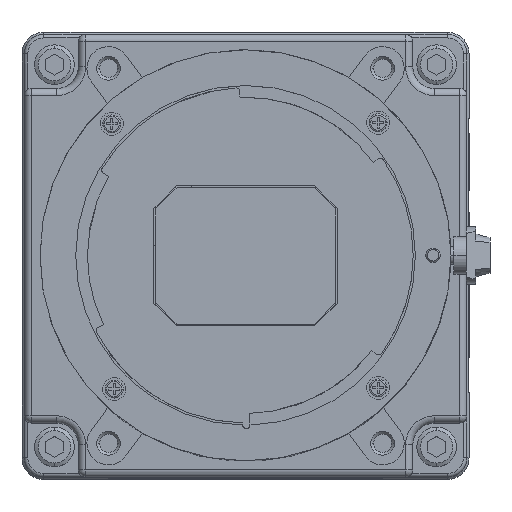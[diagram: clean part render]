
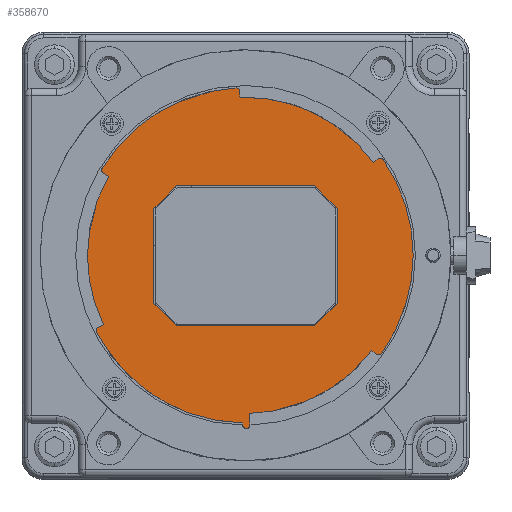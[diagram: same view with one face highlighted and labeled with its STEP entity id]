
A CAD part, top view. The second image highlights one B-rep face of the part: STEP entity #358670.
In plain terms, the highlighted planar face has unit normal (0, 0, 1).
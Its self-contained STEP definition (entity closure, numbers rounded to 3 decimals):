
#356270=CARTESIAN_POINT('',(-31.812,180.,81.301));
#356280=VERTEX_POINT('',#356270);
#356310=CARTESIAN_POINT('',(-30.612,180.,81.301));
#356320=DIRECTION('',(0.,0.,1.));
#356330=DIRECTION('',(-1.,0.,0.));
#356340=AXIS2_PLACEMENT_3D('',#356310,#356320,#356330);
#356350=CIRCLE('',#356340,1.2);
#356360=CARTESIAN_POINT('',(-29.412,180.,81.301));
#356370=VERTEX_POINT('',#356360);
#356380=EDGE_CURVE('',#356370,#356280,#356350,.T.);
#356500=CARTESIAN_POINT('',(-77.112,199.,
81.301));
#356510=DIRECTION('',(0.,0.,1.));
#356520=DIRECTION('',(1.,0.,0.));
#356530=AXIS2_PLACEMENT_3D('',#356500,#356510,#356520);
#356540=PLANE('',#356530);
#356550=CARTESIAN_POINT('',(-80.612,218.,81.301));
#356560=DIRECTION('',(0.,0.,1.));
#356570=DIRECTION('',(-1.,0.,0.));
#356580=AXIS2_PLACEMENT_3D('',#356550,#356560,#356570);
#356590=CIRCLE('',#356580,1.2);
#356600=CARTESIAN_POINT('',(-81.812,218.,81.301));
#356610=VERTEX_POINT('',#356600);
#356620=CARTESIAN_POINT('',(-79.412,218.,81.301));
#356630=VERTEX_POINT('',#356620);
#356640=EDGE_CURVE('',#356610,#356630,#356590,.T.);
#356650=ORIENTED_EDGE('',*,*,#356640,.F.);
#356660=EDGE_CURVE('',#356630,#356610,#356590,.T.);
#356670=ORIENTED_EDGE('',*,*,#356660,.F.);
#356680=EDGE_LOOP('',(#356670,#356650));
#356690=FACE_BOUND('',#356680,.T.);
#356700=EDGE_CURVE('',#356280,#356370,#356350,.T.);
#356710=ORIENTED_EDGE('',*,*,#356700,.F.);
#356720=ORIENTED_EDGE('',*,*,#356380,.F.);
#356730=EDGE_LOOP('',(#356720,#356710));
#356740=FACE_BOUND('',#356730,.T.);
#356750=CARTESIAN_POINT('',(-30.612,218.,81.301));
#356760=DIRECTION('',(0.,0.,1.));
#356770=DIRECTION('',(-1.,0.,0.));
#356780=AXIS2_PLACEMENT_3D('',#356750,#356760,#356770);
#356790=CIRCLE('',#356780,1.2);
#356800=CARTESIAN_POINT('',(-31.812,218.,81.301));
#356810=VERTEX_POINT('',#356800);
#356820=CARTESIAN_POINT('',(-29.412,218.,81.301));
#356830=VERTEX_POINT('',#356820);
#356840=EDGE_CURVE('',#356810,#356830,#356790,.T.);
#356850=ORIENTED_EDGE('',*,*,#356840,.F.);
#356860=EDGE_CURVE('',#356830,#356810,#356790,.T.);
#356870=ORIENTED_EDGE('',*,*,#356860,.F.);
#356880=EDGE_LOOP('',(#356870,#356850));
#356890=FACE_BOUND('',#356880,.T.);
#356900=CARTESIAN_POINT('',(-55.612,218.3,
81.301));
#356910=DIRECTION('',(0.707,-0.707,-0.));
#356920=VECTOR('',#356910,1.);
#356930=LINE('',#356900,#356920);
#356940=CARTESIAN_POINT('',(-46.012,208.7,81.301));
#356950=VERTEX_POINT('',#356940);
#356960=CARTESIAN_POINT('',(-42.912,205.6,81.301));
#356970=VERTEX_POINT('',#356960);
#356980=EDGE_CURVE('',#356950,#356970,#356930,.T.);
#356990=ORIENTED_EDGE('',*,*,#356980,.T.);
#357000=CARTESIAN_POINT('',(-55.612,208.7,81.301));
#357010=DIRECTION('',(1.,0.,0.));
#357020=VECTOR('',#357010,1.);
#357030=LINE('',#357000,#357020);
#357040=CARTESIAN_POINT('',(-65.212,208.7,81.301));
#357050=VERTEX_POINT('',#357040);
#357060=EDGE_CURVE('',#357050,#356950,#357030,.T.);
#357070=ORIENTED_EDGE('',*,*,#357060,.T.);
#357080=CARTESIAN_POINT('',(-55.612,218.3,
81.301));
#357090=DIRECTION('',(0.707,0.707,0.));
#357100=VECTOR('',#357090,1.);
#357110=LINE('',#357080,#357100);
#357120=CARTESIAN_POINT('',(-68.312,205.6,81.301));
#357130=VERTEX_POINT('',#357120);
#357140=EDGE_CURVE('',#357130,#357050,#357110,.T.);
#357150=ORIENTED_EDGE('',*,*,#357140,.T.);
#357160=CARTESIAN_POINT('',(-68.312,181.658,
81.301));
#357170=DIRECTION('',(0.,1.,0.));
#357180=VECTOR('',#357170,1.);
#357190=LINE('',#357160,#357180);
#357200=CARTESIAN_POINT('',(-68.312,192.4,81.301));
#357210=VERTEX_POINT('',#357200);
#357220=EDGE_CURVE('',#357210,#357130,#357190,.T.);
#357230=ORIENTED_EDGE('',*,*,#357220,.T.);
#357240=CARTESIAN_POINT('',(-55.612,179.7,
81.301));
#357250=DIRECTION('',(0.707,-0.707,-0.));
#357260=VECTOR('',#357250,1.);
#357270=LINE('',#357240,#357260);
#357280=CARTESIAN_POINT('',(-65.212,189.3,81.301));
#357290=VERTEX_POINT('',#357280);
#357300=EDGE_CURVE('',#357210,#357290,#357270,.T.);
#357310=ORIENTED_EDGE('',*,*,#357300,.F.);
#357320=CARTESIAN_POINT('',(-55.612,189.3,81.301));
#357330=DIRECTION('',(-1.,0.,0.));
#357340=VECTOR('',#357330,1.);
#357350=LINE('',#357320,#357340);
#357360=CARTESIAN_POINT('',(-46.012,189.3,81.301));
#357370=VERTEX_POINT('',#357360);
#357380=EDGE_CURVE('',#357370,#357290,#357350,.T.);
#357390=ORIENTED_EDGE('',*,*,#357380,.T.);
#357400=CARTESIAN_POINT('',(-55.612,179.7,
81.301));
#357410=DIRECTION('',(-0.707,-0.707,0.));
#357420=VECTOR('',#357410,1.);
#357430=LINE('',#357400,#357420);
#357440=CARTESIAN_POINT('',(-42.912,192.4,81.301));
#357450=VERTEX_POINT('',#357440);
#357460=EDGE_CURVE('',#357450,#357370,#357430,.T.);
#357470=ORIENTED_EDGE('',*,*,#357460,.T.);
#357480=CARTESIAN_POINT('',(-42.912,181.658,
81.301));
#357490=DIRECTION('',(0.,-1.,0.));
#357500=VECTOR('',#357490,1.);
#357510=LINE('',#357480,#357500);
#357520=EDGE_CURVE('',#356970,#357450,#357510,.T.);
#357530=ORIENTED_EDGE('',*,*,#357520,.T.);
#357540=EDGE_LOOP('',(#357530,#357470,#357390,#357310,#357230,#357150,
#357070,#356990));
#357550=FACE_BOUND('',#357540,.T.);
#357560=CARTESIAN_POINT('',(-80.612,180.,81.301));
#357570=DIRECTION('',(0.,0.,1.));
#357580=DIRECTION('',(-1.,0.,0.));
#357590=AXIS2_PLACEMENT_3D('',#357560,#357570,#357580);
#357600=CIRCLE('',#357590,1.2);
#357610=CARTESIAN_POINT('',(-81.812,180.,81.301));
#357620=VERTEX_POINT('',#357610);
#357630=CARTESIAN_POINT('',(-79.412,180.,81.301));
#357640=VERTEX_POINT('',#357630);
#357650=EDGE_CURVE('',#357620,#357640,#357600,.T.);
#357660=ORIENTED_EDGE('',*,*,#357650,.F.);
#357670=EDGE_CURVE('',#357640,#357620,#357600,.T.);
#357680=ORIENTED_EDGE('',*,*,#357670,.F.);
#357690=EDGE_LOOP('',(#357680,#357660));
#357700=FACE_BOUND('',#357690,.T.);
#357710=CARTESIAN_POINT('',(-55.612,177.2,
81.301));
#357720=DIRECTION('',(1.,0.,0.));
#357730=VECTOR('',#357720,1.);
#357740=LINE('',#357710,#357730);
#357750=CARTESIAN_POINT('',(-81.412,177.2,
81.301));
#357760=VERTEX_POINT('',#357750);
#357770=CARTESIAN_POINT('',(-67.436,177.2,
81.301));
#357780=VERTEX_POINT('',#357770);
#357790=EDGE_CURVE('',#357760,#357780,#357740,.T.);
#357800=ORIENTED_EDGE('',*,*,#357790,.T.);
#357810=CARTESIAN_POINT('',(-81.412,179.2,
81.301));
#357820=DIRECTION('',(0.,0.,1.));
#357830=DIRECTION('',(0.,-1.,0.));
#357840=AXIS2_PLACEMENT_3D('',#357810,#357820,#357830);
#357850=CIRCLE('',#357840,2.);
#357860=CARTESIAN_POINT('',(-83.412,179.2,
81.301));
#357870=VERTEX_POINT('',#357860);
#357880=EDGE_CURVE('',#357870,#357760,#357850,.T.);
#357890=ORIENTED_EDGE('',*,*,#357880,.T.);
#357900=CARTESIAN_POINT('',(-83.412,181.658,
81.301));
#357910=DIRECTION('',(0.,-1.,0.));
#357920=VECTOR('',#357910,1.);
#357930=LINE('',#357900,#357920);
#357940=CARTESIAN_POINT('',(-83.412,218.8,
81.301));
#357950=VERTEX_POINT('',#357940);
#357960=EDGE_CURVE('',#357950,#357870,#357930,.T.);
#357970=ORIENTED_EDGE('',*,*,#357960,.T.);
#357980=CARTESIAN_POINT('',(-81.412,218.8,
81.301));
#357990=DIRECTION('',(0.,0.,1.));
#358000=DIRECTION('',(0.,-1.,0.));
#358010=AXIS2_PLACEMENT_3D('',#357980,#357990,#358000);
#358020=CIRCLE('',#358010,2.);
#358030=CARTESIAN_POINT('',(-81.412,220.8,
81.301));
#358040=VERTEX_POINT('',#358030);
#358050=EDGE_CURVE('',#358040,#357950,#358020,.T.);
#358060=ORIENTED_EDGE('',*,*,#358050,.T.);
#358070=CARTESIAN_POINT('',(-55.612,220.8,
81.301));
#358080=DIRECTION('',(-1.,0.,0.));
#358090=VECTOR('',#358080,1.);
#358100=LINE('',#358070,#358090);
#358110=CARTESIAN_POINT('',(-67.436,220.8,
81.301));
#358120=VERTEX_POINT('',#358110);
#358130=EDGE_CURVE('',#358120,#358040,#358100,.T.);
#358140=ORIENTED_EDGE('',*,*,#358130,.T.);
#358150=CARTESIAN_POINT('',(-55.612,199.,
81.301));
#358160=DIRECTION('',(0.,0.,1.));
#358170=DIRECTION('',(1.,0.,0.));
#358180=AXIS2_PLACEMENT_3D('',#358150,#358160,#358170);
#358190=CIRCLE('',#358180,24.8);
#358200=CARTESIAN_POINT('',(-43.789,220.8,
81.301));
#358210=VERTEX_POINT('',#358200);
#358220=EDGE_CURVE('',#358210,#358120,#358190,.T.);
#358230=ORIENTED_EDGE('',*,*,#358220,.T.);
#358240=CARTESIAN_POINT('',(-29.812,220.8,
81.301));
#358250=VERTEX_POINT('',#358240);
#358260=EDGE_CURVE('',#358250,#358210,#358100,.T.);
#358270=ORIENTED_EDGE('',*,*,#358260,.T.);
#358280=CARTESIAN_POINT('',(-29.812,218.8,
81.301));
#358290=DIRECTION('',(0.,0.,-1.));
#358300=DIRECTION('',(0.,1.,0.));
#358310=AXIS2_PLACEMENT_3D('',#358280,#358290,#358300);
#358320=CIRCLE('',#358310,2.);
#358330=CARTESIAN_POINT('',(-27.812,218.8,
81.301));
#358340=VERTEX_POINT('',#358330);
#358350=EDGE_CURVE('',#358250,#358340,#358320,.T.);
#358360=ORIENTED_EDGE('',*,*,#358350,.F.);
#358370=CARTESIAN_POINT('',(-27.812,181.658,
81.301));
#358380=DIRECTION('',(0.,1.,0.));
#358390=VECTOR('',#358380,1.);
#358400=LINE('',#358370,#358390);
#358410=CARTESIAN_POINT('',(-27.812,179.2,
81.301));
#358420=VERTEX_POINT('',#358410);
#358430=EDGE_CURVE('',#358420,#358340,#358400,.T.);
#358440=ORIENTED_EDGE('',*,*,#358430,.T.);
#358450=CARTESIAN_POINT('',(-29.812,179.2,
81.301));
#358460=DIRECTION('',(0.,0.,1.));
#358470=DIRECTION('',(0.,-1.,0.));
#358480=AXIS2_PLACEMENT_3D('',#358450,#358460,#358470);
#358490=CIRCLE('',#358480,2.);
#358500=CARTESIAN_POINT('',(-29.812,177.2,
81.301));
#358510=VERTEX_POINT('',#358500);
#358520=EDGE_CURVE('',#358510,#358420,#358490,.T.);
#358530=ORIENTED_EDGE('',*,*,#358520,.T.);
#358540=CARTESIAN_POINT('',(-43.789,177.2,
81.301));
#358550=VERTEX_POINT('',#358540);
#358560=EDGE_CURVE('',#358550,#358510,#357740,.T.);
#358570=ORIENTED_EDGE('',*,*,#358560,.T.);
#358580=CARTESIAN_POINT('',(-55.612,199.,
81.301));
#358590=DIRECTION('',(0.,0.,1.));
#358600=DIRECTION('',(1.,0.,0.));
#358610=AXIS2_PLACEMENT_3D('',#358580,#358590,#358600);
#358620=CIRCLE('',#358610,24.8);
#358630=EDGE_CURVE('',#357780,#358550,#358620,.T.);
#358640=ORIENTED_EDGE('',*,*,#358630,.T.);
#358650=EDGE_LOOP('',(#358640,#358570,#358530,#358440,#358360,#358270,
#358230,#358140,#358060,#357970,#357890,#357800));
#358660=FACE_OUTER_BOUND('',#358650,.T.);
#358670=ADVANCED_FACE('',(#356690,#356740,#356890,#357550,#357700,
#358660),#356540,.T.);
